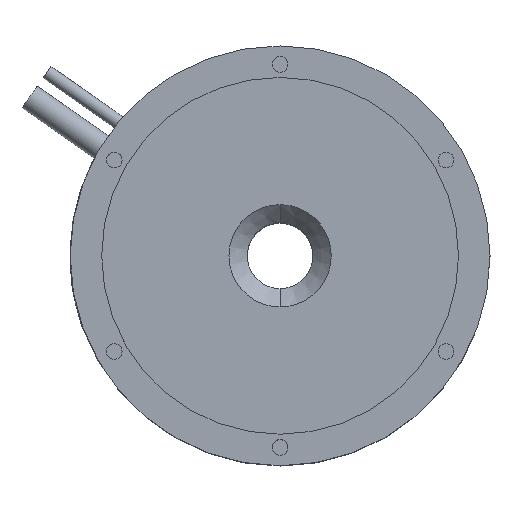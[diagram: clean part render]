
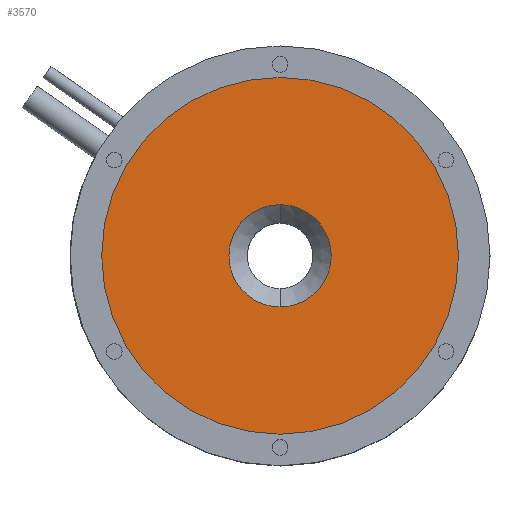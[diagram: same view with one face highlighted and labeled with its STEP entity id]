
A CAD part, top view. The second image highlights one B-rep face of the part: STEP entity #3570.
In plain terms, the highlighted planar face has unit normal (0, 0, 1).
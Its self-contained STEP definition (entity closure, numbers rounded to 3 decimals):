
#88 = EDGE_CURVE ( 'NONE', #3259, #279, #4871, .T. ) ;
#279 = VERTEX_POINT ( 'NONE', #5246 ) ;
#326 = CARTESIAN_POINT ( 'NONE',  ( 0., -19.5, 92.5 ) ) ;
#327 = CIRCLE ( 'NONE', #354, 19.5 ) ;
#351 = DIRECTION ( 'NONE',  ( 0., -1., 0. ) ) ;
#352 = DIRECTION ( 'NONE',  ( 0., 0., -1. ) ) ;
#353 = CARTESIAN_POINT ( 'NONE',  ( 0., 0., 92.5 ) ) ;
#354 = AXIS2_PLACEMENT_3D ( 'NONE', #353, #352, #351 ) ;
#368 = CARTESIAN_POINT ( 'NONE',  ( 0., 19.5, 92.5 ) ) ;
#744 = CIRCLE ( 'NONE', #801, 19.5 ) ;
#749 = AXIS2_PLACEMENT_3D ( 'NONE', #755, #754, #800 ) ;
#751 = PLANE ( 'NONE',  #749 ) ;
#754 = DIRECTION ( 'NONE',  ( 0., 0., 1. ) ) ;
#755 = CARTESIAN_POINT ( 'NONE',  ( 0., -12.5, 92.5 ) ) ;
#797 = DIRECTION ( 'NONE',  ( 0., -1., 0. ) ) ;
#798 = DIRECTION ( 'NONE',  ( 0., 0., -1. ) ) ;
#799 = CARTESIAN_POINT ( 'NONE',  ( 0., 0., 92.5 ) ) ;
#800 = DIRECTION ( 'NONE',  ( 0., -1., 0. ) ) ;
#801 = AXIS2_PLACEMENT_3D ( 'NONE', #799, #798, #797 ) ;
#804 = FACE_OUTER_BOUND ( 'NONE', #3558, .T. ) ;
#808 = FACE_BOUND ( 'NONE', #3561, .T. ) ;
#1333 = EDGE_CURVE ( 'NONE', #279, #3259, #5292, .T. ) ;
#3259 = VERTEX_POINT ( 'NONE', #5550 ) ;
#3381 = VERTEX_POINT ( 'NONE', #326 ) ;
#3387 = VERTEX_POINT ( 'NONE', #368 ) ;
#3392 = EDGE_CURVE ( 'NONE', #3381, #3387, #327, .T. ) ;
#3550 = ORIENTED_EDGE ( 'NONE', *, *, #88, .F. ) ;
#3558 = EDGE_LOOP ( 'NONE', ( #3568, #3550 ) ) ;
#3561 = EDGE_LOOP ( 'NONE', ( #3566, #3569 ) ) ;
#3566 = ORIENTED_EDGE ( 'NONE', *, *, #3392, .T. ) ;
#3568 = ORIENTED_EDGE ( 'NONE', *, *, #1333, .F. ) ;
#3569 = ORIENTED_EDGE ( 'NONE', *, *, #3571, .T. ) ;
#3570 = ADVANCED_FACE ( 'NONE', ( #808, #804 ), #751, .T. ) ;
#3571 = EDGE_CURVE ( 'NONE', #3387, #3381, #744, .T. ) ;
#4871 = CIRCLE ( 'NONE', #4904, 68. ) ;
#4904 = AXIS2_PLACEMENT_3D ( 'NONE', #4918, #4943, #4942 ) ;
#4918 = CARTESIAN_POINT ( 'NONE',  ( 0., 0., 92.5 ) ) ;
#4942 = DIRECTION ( 'NONE',  ( 0., 1., 0. ) ) ;
#4943 = DIRECTION ( 'NONE',  ( 0., 0., -1. ) ) ;
#5246 = CARTESIAN_POINT ( 'NONE',  ( 0., 68., 92.5 ) ) ;
#5268 = DIRECTION ( 'NONE',  ( 0., 1., 0. ) ) ;
#5269 = DIRECTION ( 'NONE',  ( 0., 0., -1. ) ) ;
#5279 = CARTESIAN_POINT ( 'NONE',  ( 0., 0., 92.5 ) ) ;
#5285 = AXIS2_PLACEMENT_3D ( 'NONE', #5279, #5269, #5268 ) ;
#5292 = CIRCLE ( 'NONE', #5285, 68. ) ;
#5550 = CARTESIAN_POINT ( 'NONE',  ( 0., -68., 92.5 ) ) ;
